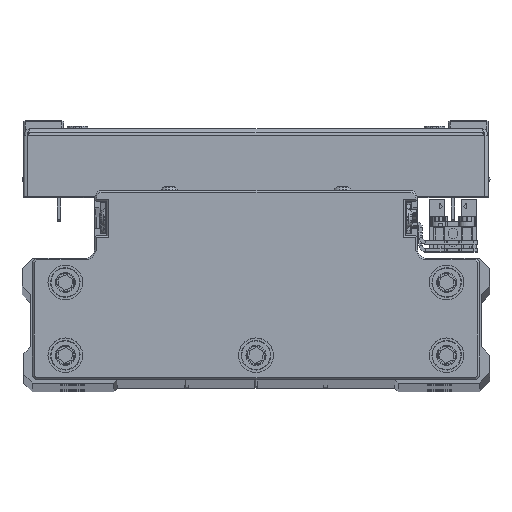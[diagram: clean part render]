
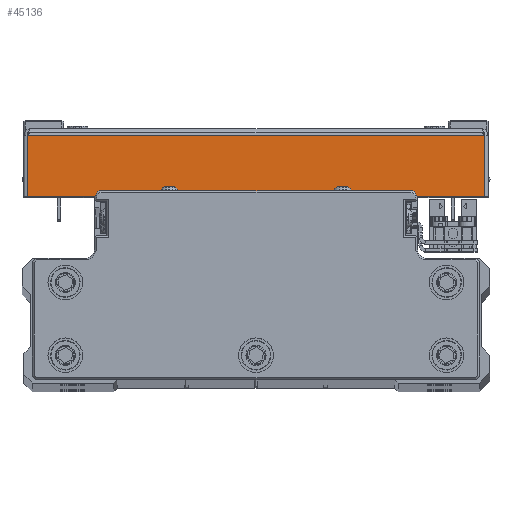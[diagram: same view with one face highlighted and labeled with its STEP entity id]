
A CAD part, top view. The second image highlights one B-rep face of the part: STEP entity #45136.
In plain terms, the highlighted planar face has unit normal (0, 0, 1) as drawn and (1, 0, 0) by its records, which use the part's own axes.
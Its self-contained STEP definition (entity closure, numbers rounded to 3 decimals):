
#1360 = CARTESIAN_POINT ( 'NONE',  ( 100., 0., -65.929 ) ) ;
#1879 = CARTESIAN_POINT ( 'NONE',  ( 100., 18.5, 0. ) ) ;
#3753 = VERTEX_POINT ( 'NONE', #8075 ) ;
#6884 = DIRECTION ( 'NONE',  ( 0., -1., 0. ) ) ;
#6935 = ORIENTED_EDGE ( 'NONE', *, *, #33550, .T. ) ;
#8075 = CARTESIAN_POINT ( 'NONE',  ( 100., 18.5, -65.929 ) ) ;
#8971 = EDGE_CURVE ( 'NONE', #11772, #35380, #28664, .T. ) ;
#10258 = EDGE_CURVE ( 'NONE', #11772, #3753, #32859, .T. ) ;
#10345 = PLANE ( 'NONE',  #12557 ) ;
#10571 = LINE ( 'NONE', #24576, #33500 ) ;
#11197 = DIRECTION ( 'NONE',  ( 0., 0., 1. ) ) ;
#11772 = VERTEX_POINT ( 'NONE', #14702 ) ;
#12557 = AXIS2_PLACEMENT_3D ( 'NONE', #24352, #38372, #6884 ) ;
#14702 = CARTESIAN_POINT ( 'NONE',  ( 100., 1., -65.929 ) ) ;
#15368 = DIRECTION ( 'NONE',  ( 0., 1., 0. ) ) ;
#15897 = DIRECTION ( 'NONE',  ( 0., 0., 1. ) ) ;
#21439 = EDGE_LOOP ( 'NONE', ( #29803, #24446, #6935, #30264 ) ) ;
#24352 = CARTESIAN_POINT ( 'NONE',  ( 100., 0., 0. ) ) ;
#24446 = ORIENTED_EDGE ( 'NONE', *, *, #10258, .T. ) ;
#24576 = CARTESIAN_POINT ( 'NONE',  ( 100., 0., 65.929 ) ) ;
#28497 = EDGE_CURVE ( 'NONE', #35380, #34622, #10571, .T. ) ;
#28664 = LINE ( 'NONE', #42662, #36473 ) ;
#29220 = VECTOR ( 'NONE', #15368, 1000. ) ;
#29803 = ORIENTED_EDGE ( 'NONE', *, *, #8971, .F. ) ;
#30264 = ORIENTED_EDGE ( 'NONE', *, *, #28497, .F. ) ;
#32859 = LINE ( 'NONE', #1360, #29220 ) ;
#33372 = LINE ( 'NONE', #1879, #43415 ) ;
#33500 = VECTOR ( 'NONE', #38597, 1000. ) ;
#33550 = EDGE_CURVE ( 'NONE', #3753, #34622, #33372, .T. ) ;
#34622 = VERTEX_POINT ( 'NONE', #44064 ) ;
#35380 = VERTEX_POINT ( 'NONE', #36349 ) ;
#36349 = CARTESIAN_POINT ( 'NONE',  ( 100., 1., 65.929 ) ) ;
#36473 = VECTOR ( 'NONE', #11197, 1000. ) ;
#38372 = DIRECTION ( 'NONE',  ( -1., 0., 0. ) ) ;
#38597 = DIRECTION ( 'NONE',  ( 0., 1., 0. ) ) ;
#41821 = FACE_OUTER_BOUND ( 'NONE', #21439, .T. ) ;
#42662 = CARTESIAN_POINT ( 'NONE',  ( 100., 1., 67. ) ) ;
#43415 = VECTOR ( 'NONE', #15897, 1000. ) ;
#44064 = CARTESIAN_POINT ( 'NONE',  ( 100., 18.5, 65.929 ) ) ;
#45136 = ADVANCED_FACE ( 'NONE', ( #41821 ), #10345, .F. ) ;
